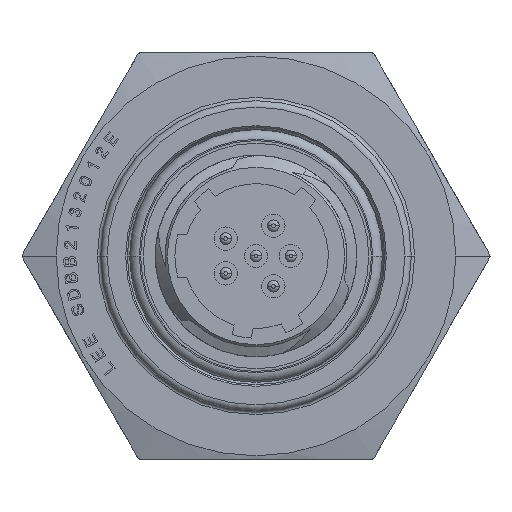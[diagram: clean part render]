
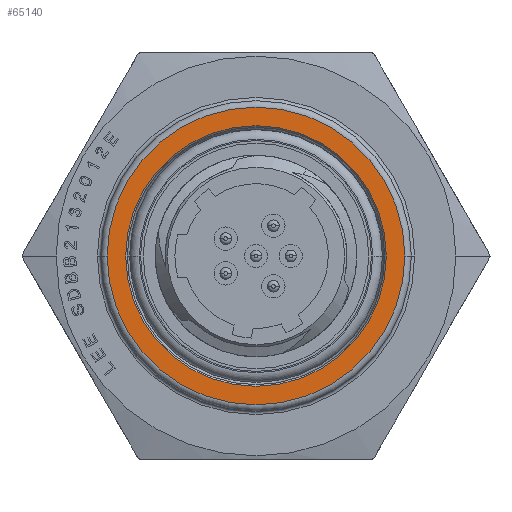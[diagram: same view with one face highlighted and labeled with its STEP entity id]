
A CAD part, left-side view. The second image highlights one B-rep face of the part: STEP entity #65140.
In plain terms, the highlighted planar face has unit normal (-1, 0, 0).
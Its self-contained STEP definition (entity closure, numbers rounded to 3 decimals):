
#64590=CARTESIAN_POINT('',(25.654,-10.185,
0.));
#64600=VERTEX_POINT('',#64590);
#64630=CARTESIAN_POINT('',(25.654,0.,0.));
#64640=DIRECTION('',(1.,0.,0.));
#64650=DIRECTION('',(0.,1.,0.));
#64660=AXIS2_PLACEMENT_3D('',#64630,#64640,#64650);
#64670=CIRCLE('',#64660,10.185);
#64680=CARTESIAN_POINT('',(25.654,10.185,0.));
#64690=VERTEX_POINT('',#64680);
#64700=EDGE_CURVE('',#64600,#64690,#64670,.T.);
#64890=CARTESIAN_POINT('',(25.654,10.909,0.));
#64900=DIRECTION('',(-1.,0.,0.));
#64910=DIRECTION('',(0.,1.,0.));
#64920=AXIS2_PLACEMENT_3D('',#64890,#64900,#64910);
#64930=PLANE('',#64920);
#64940=EDGE_CURVE('',#64690,#64600,#64670,.T.);
#64950=ORIENTED_EDGE('',*,*,#64940,.T.);
#64960=ORIENTED_EDGE('',*,*,#64700,.T.);
#64970=EDGE_LOOP('',(#64960,#64950));
#64980=FACE_BOUND('',#64970,.T.);
#64990=CARTESIAN_POINT('',(25.654,0.,0.));
#65000=DIRECTION('',(1.,0.,0.));
#65010=DIRECTION('',(0.,1.,0.));
#65020=AXIS2_PLACEMENT_3D('',#64990,#65000,#65010);
#65030=CIRCLE('',#65020,11.633);
#65040=CARTESIAN_POINT('',(25.654,11.633,0.));
#65050=VERTEX_POINT('',#65040);
#65060=CARTESIAN_POINT('',(25.654,-11.633,0.));
#65070=VERTEX_POINT('',#65060);
#65080=EDGE_CURVE('',#65050,#65070,#65030,.T.);
#65090=ORIENTED_EDGE('',*,*,#65080,.F.);
#65100=EDGE_CURVE('',#65070,#65050,#65030,.T.);
#65110=ORIENTED_EDGE('',*,*,#65100,.F.);
#65120=EDGE_LOOP('',(#65110,#65090));
#65130=FACE_OUTER_BOUND('',#65120,.T.);
#65140=ADVANCED_FACE('',(#64980,#65130),#64930,.T.);
